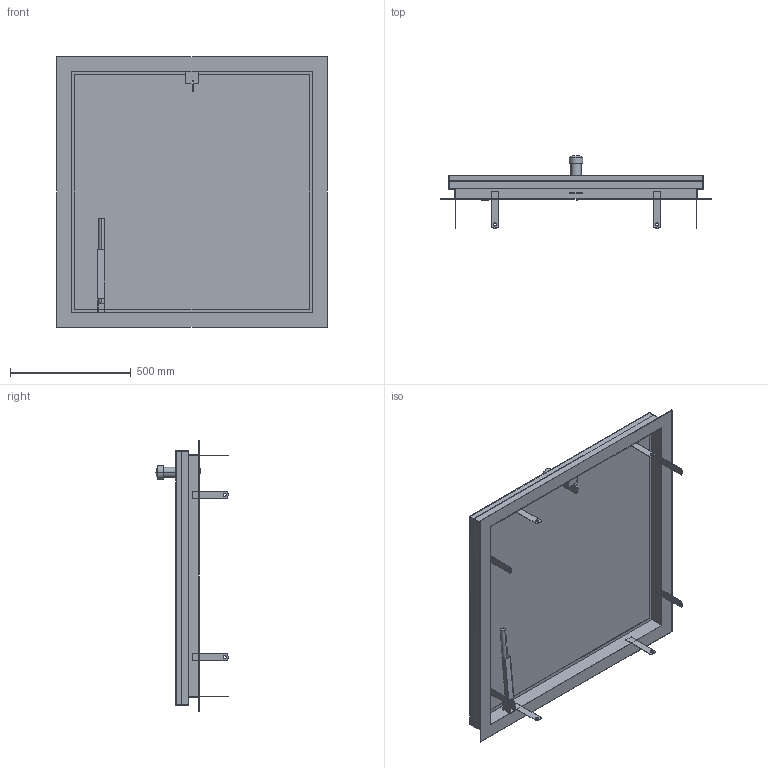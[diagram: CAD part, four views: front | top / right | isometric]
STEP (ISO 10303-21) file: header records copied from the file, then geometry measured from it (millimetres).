
FILE_DESCRIPTION((''),'2;1');
FILE_NAME('52335842','2024-12-19T07:47:25',('wep'),('HUBER SE'),'CREO PARAMETRIC BY PTC INC, 2022162','CREO PARAMETRIC BY PTC INC, 2022162','');
FILE_SCHEMA(('AUTOMOTIVE_DESIGN { 1 0 10303 214 1 1 1 1 }'));
Length unit declared in the file: millimetre
Products named in the file (1): 52335842
Bounding box: 1120 x 300 x 1120 mm (x, y, z)
Volume: 5536537.6 mm3; surface area: 6114448.5 mm2
Topology: 4 solids, 5 shells, 734 faces, 1996 edges, 1323 vertices
Faces by surface type: plane 422, extrusion 275, cylinder 35, sphere 2
Entity records: 24920 total; most frequent: CARTESIAN_POINT 6686, ORIENTED_EDGE 3988, DIRECTION 2709, EDGE_CURVE 1994, VECTOR 1647, LINE 1372, VERTEX_POINT 1323, B_SPLINE_CURVE_WITH_KNOTS 825
